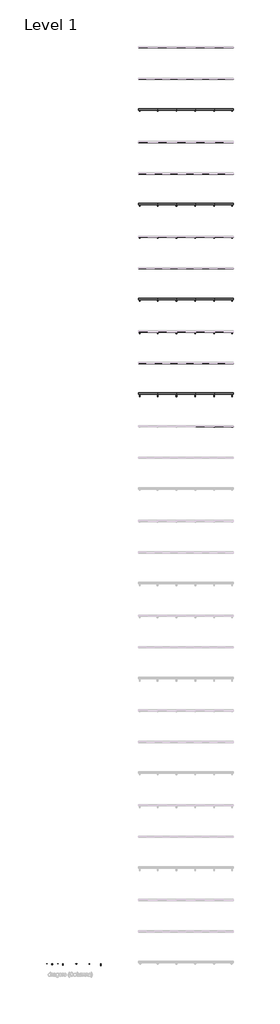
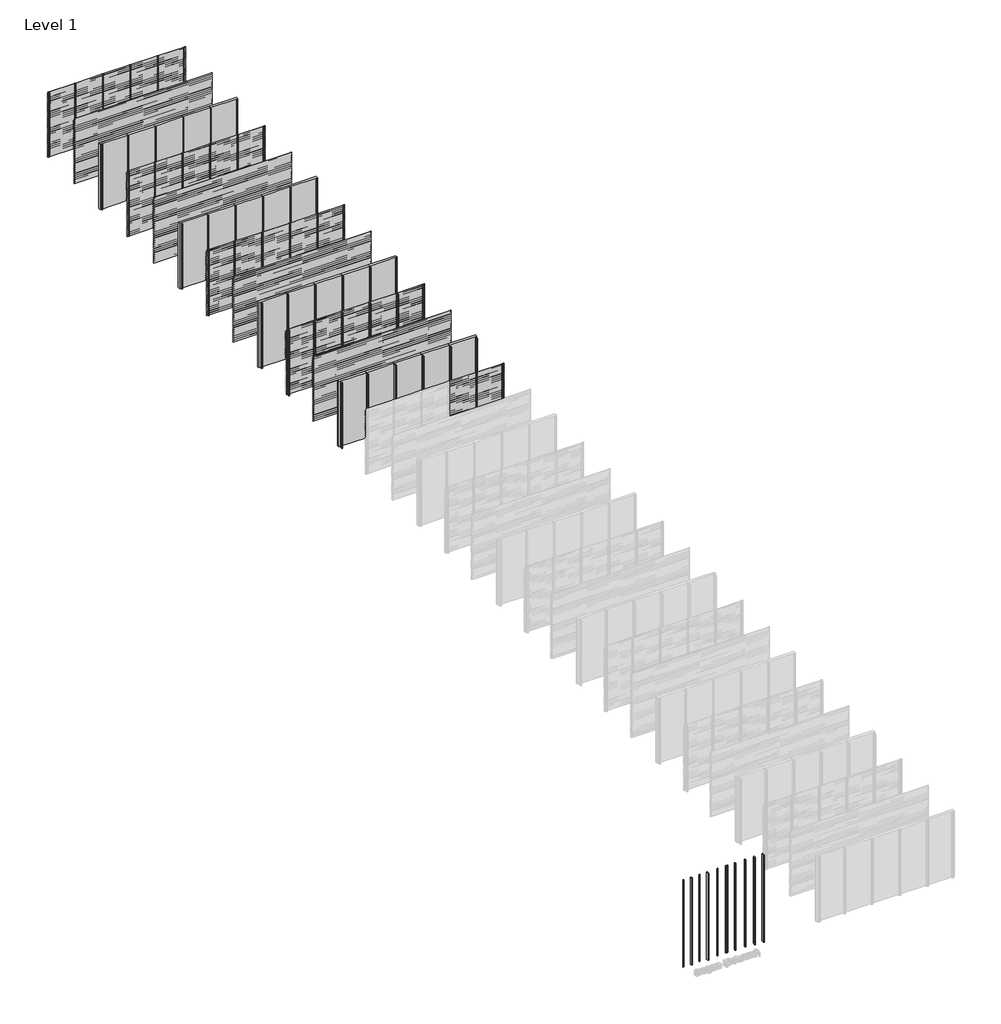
# One storey, part 2 of 24: 50 members, 46 plates, 10 columns.
"""IFC4 building model written with IfcOpenShell, lengths in millimetres."""

from ifc_helpers import new_model, si_unit, origin, origin_with_axes, place, context, project, spatial, polyline, outline, extrude, transform, mapped, element, save
from components import std_5c565dbb, std_899e7a4b, std_785593f7, std_43d18051, std_98619cea, std_01971508, std_518c84ec, std_1eaa2876, std_77a662f7, std_0d551fe3, rectangular_mullion_42be434b, rectangular_mullion_e1f482b2, rectangular_mullion_21e3ddae, rectangular_mullion_fb497acc, rectangular_mullion_3facce28, rectangular_mullion_ffdfeaf4, rectangular_mullion_e0a14876, rectangular_mullion_146f339b, rectangular_mullion_aa1047c5, rectangular_mullion_c2c7736a, rectangular_mullion_35b0a916, rectangular_mullion_bd250e2e, rectangular_mullion_7b49c8f1, rectangular_mullion_0fd695e7, empty_system_panel_empty_aabbdda4

model = new_model("IFC4")

# Units and contexts
model_context = context("Model", 3, world=origin())
ifc_project = project(units=[si_unit("LENGTHUNIT", "METRE", prefix="MILLI")], contexts=[model_context])

# Site, building, storey
site = spatial("IfcSite", under=ifc_project)
building = spatial("IfcBuilding", under=site)
storey = spatial("IfcBuildingStorey", under=building, Name="Level 1", Elevation=0.0)

# Columns
placement = place(None, origin())
std_shape = std_5c565dbb(model_context)
element("IfcColumn", 1, ObjectType="NLRS_21_COL_drager ST.014_Storax : std", at=placement, inside=storey, context=model_context, shape_type="MappedRepresentation", body=[
    mapped(std_shape, transform((-5824.7601511, -58000.0, 0.0), x_axis=(1.0, 0.0, 0.0), y_axis=(0.0, 1.0, 0.0), z_axis=(0.0, 0.0, 1.0))),
])
std_2_shape = std_899e7a4b(model_context)
element("IfcColumn", 2, ObjectType="NLRS_21_COL_drager ST.054_Storax : std", at=placement, inside=storey, context=model_context, shape_type="MappedRepresentation", body=[
    mapped(std_2_shape, transform((-5485.4429851, -58000.0, 0.0), x_axis=(1.0, 0.0, 0.0), y_axis=(0.0, 1.0, 0.0), z_axis=(0.0, 0.0, 1.0))),
])
std_3_shape = std_785593f7(model_context)
element("IfcColumn", 3, ObjectType="NLRS_21_COL_drager ST.0065_Storax : std", at=placement, inside=storey, context=model_context, shape_type="MappedRepresentation", body=[
    mapped(std_3_shape, transform((-5120.6954358, -58000.0, 0.0), x_axis=(1.0, 0.0, 0.0), y_axis=(0.0, 1.0, 0.0), z_axis=(0.0, 0.0, 1.0))),
])
std_4_shape = std_43d18051(model_context)
element("IfcColumn", 4, ObjectType="NLRS_21_COL_drager ST.100_Storax : std", at=placement, inside=storey, context=model_context, shape_type="MappedRepresentation", body=[
    mapped(std_4_shape, transform((-4798.3288682, -58000.0, 0.0), x_axis=(1.0, 0.0, 0.0), y_axis=(0.0, 1.0, 0.0), z_axis=(0.0, 0.0, 1.0))),
])
std_5_shape = std_98619cea(model_context)
element("IfcColumn", 5, ObjectType="NLRS_21_COL_drager ST.0195_Storax : std", at=placement, inside=storey, context=model_context, shape_type="MappedRepresentation", body=[
    mapped(std_5_shape, transform((-4346.8344505, -58000.0, 0.0), x_axis=(1.0, 0.0, 0.0), y_axis=(0.0, 1.0, 0.0), z_axis=(0.0, 0.0, 1.0))),
])
std_6_shape = std_01971508(model_context)
element("IfcColumn", 6, ObjectType="NLRS_21_COL_drager ST.0240_Storax : std", at=placement, inside=storey, context=model_context, shape_type="MappedRepresentation", body=[
    mapped(std_6_shape, transform((-3939.4792083, -58000.0, 0.0), x_axis=(1.0, 0.0, 0.0), y_axis=(0.0, 1.0, 0.0), z_axis=(0.0, 0.0, 1.0))),
])
std_7_shape = std_518c84ec(model_context)
element("IfcColumn", 7, ObjectType="NLRS_21_COL_drager ST.0440_Storax : std", at=placement, inside=storey, context=model_context, shape_type="MappedRepresentation", body=[
    mapped(std_7_shape, transform((-3585.3839676, -58000.0, 0.0), x_axis=(1.0, 0.0, 0.0), y_axis=(0.0, 1.0, 0.0), z_axis=(0.0, 0.0, 1.0))),
])
std_8_shape = std_1eaa2876(model_context)
element("IfcColumn", 8, ObjectType="NLRS_21_COL_drager ST.0460_Storax : std", at=placement, inside=storey, context=model_context, shape_type="MappedRepresentation", body=[
    mapped(std_8_shape, transform((-3138.0700537, -58000.0, 0.0), x_axis=(1.0, 0.0, 0.0), y_axis=(0.0, 1.0, 0.0), z_axis=(0.0, 0.0, 1.0))),
])
std_9_shape = std_77a662f7(model_context)
element("IfcColumn", 9, ObjectType="NLRS_21_COL_drager ST.0995_Storax : std", at=placement, inside=storey, context=model_context, shape_type="MappedRepresentation", body=[
    mapped(std_9_shape, transform((-2753.4636979, -58000.0, 0.0), x_axis=(1.0, 0.0, 0.0), y_axis=(0.0, 1.0, 0.0), z_axis=(0.0, 0.0, 1.0))),
])
std_10_shape = std_0d551fe3(model_context)
element("IfcColumn", 10, ObjectType="NLRS_21_COL_drager ST.1250_Storax : std", at=placement, inside=storey, context=model_context, shape_type="MappedRepresentation", body=[
    mapped(std_10_shape, transform((-2393.9403653, -58000.0, 0.0), x_axis=(1.0, 0.0, 0.0), y_axis=(0.0, 1.0, 0.0), z_axis=(0.0, 0.0, 1.0))),
])

# Members
rectangular_mullion_shape = rectangular_mullion_42be434b(model_context)
element("IfcMember", 11, ObjectType="Rectangular Mullion : NLRS_21_CWM_drager LD.0065_Storax", at=placement, inside=storey, context=model_context, shape_type="MappedRepresentation", body=[
    mapped(rectangular_mullion_shape, transform((4800.0, 0.0, 0.0), x_axis=(-1.0, 0.0, 0.0), y_axis=(0.0, 1.0, 0.0), z_axis=(0.0, 0.0, -1.0))),
])
element("IfcMember", 12, ObjectType="Rectangular Mullion : NLRS_21_CWM_drager LD.0065_Storax", at=placement, inside=storey, context=model_context, shape_type="MappedRepresentation", body=[
    mapped(rectangular_mullion_shape, transform((3600.0, 0.0, 0.0), x_axis=(-1.0, 0.0, 0.0), y_axis=(0.0, 1.0, 0.0), z_axis=(0.0, 0.0, -1.0))),
])
element("IfcMember", 13, ObjectType="Rectangular Mullion : NLRS_21_CWM_drager LD.0065_Storax", at=placement, inside=storey, context=model_context, shape_type="MappedRepresentation", body=[
    mapped(rectangular_mullion_shape, transform((2400.0, 0.0, 0.0), x_axis=(-1.0, 0.0, 0.0), y_axis=(0.0, 1.0, 0.0), z_axis=(0.0, 0.0, -1.0))),
])
element("IfcMember", 14, ObjectType="Rectangular Mullion : NLRS_21_CWM_drager LD.0065_Storax", at=placement, inside=storey, context=model_context, shape_type="MappedRepresentation", body=[
    mapped(rectangular_mullion_shape, transform((1200.0, 0.0, 0.0), x_axis=(-1.0, 0.0, 0.0), y_axis=(0.0, 1.0, 0.0), z_axis=(0.0, 0.0, -1.0))),
])
element("IfcMember", 15, ObjectType="Rectangular Mullion : NLRS_21_CWM_drager LD.0065_Storax", at=placement, inside=storey, context=model_context, shape_type="MappedRepresentation", body=[
    mapped(rectangular_mullion_shape, transform((4800.0, -4000.0, 0.0), x_axis=(-1.0, 0.0, 0.0), y_axis=(0.0, 1.0, 0.0), z_axis=(0.0, 0.0, -1.0))),
])
element("IfcMember", 16, ObjectType="Rectangular Mullion : NLRS_21_CWM_drager LD.0065_Storax", at=placement, inside=storey, context=model_context, shape_type="MappedRepresentation", body=[
    mapped(rectangular_mullion_shape, transform((3600.0, -4000.0, 0.0), x_axis=(-1.0, 0.0, 0.0), y_axis=(0.0, 1.0, 0.0), z_axis=(0.0, 0.0, -1.0))),
])
element("IfcMember", 17, ObjectType="Rectangular Mullion : NLRS_21_CWM_drager LD.0065_Storax", at=placement, inside=storey, context=model_context, shape_type="MappedRepresentation", body=[
    mapped(rectangular_mullion_shape, transform((2400.0, -4000.0, 0.0), x_axis=(-1.0, 0.0, 0.0), y_axis=(0.0, 1.0, 0.0), z_axis=(0.0, 0.0, -1.0))),
])
element("IfcMember", 18, ObjectType="Rectangular Mullion : NLRS_21_CWM_drager LD.0065_Storax", at=placement, inside=storey, context=model_context, shape_type="MappedRepresentation", body=[
    mapped(rectangular_mullion_shape, transform((1200.0, -4000.0, 0.0), x_axis=(-1.0, 0.0, 0.0), y_axis=(0.0, 1.0, 0.0), z_axis=(0.0, 0.0, -1.0))),
])
rectangular_mullion_2_shape = rectangular_mullion_e1f482b2(model_context)
element("IfcMember", 19, ObjectType="Rectangular Mullion : NLRS_21_CWM_drager LD.0195_Storax", at=placement, inside=storey, context=model_context, shape_type="MappedRepresentation", body=[
    mapped(rectangular_mullion_2_shape, transform((4800.0, -6000.0, 0.0), x_axis=(-1.0, 0.0, 0.0), y_axis=(0.0, 1.0, 0.0), z_axis=(0.0, 0.0, -1.0))),
])
element("IfcMember", 20, ObjectType="Rectangular Mullion : NLRS_21_CWM_drager LD.0195_Storax", at=placement, inside=storey, context=model_context, shape_type="MappedRepresentation", body=[
    mapped(rectangular_mullion_2_shape, transform((3600.0, -6000.0, 0.0), x_axis=(-1.0, 0.0, 0.0), y_axis=(0.0, 1.0, 0.0), z_axis=(0.0, 0.0, -1.0))),
])
element("IfcMember", 21, ObjectType="Rectangular Mullion : NLRS_21_CWM_drager LD.0195_Storax", at=placement, inside=storey, context=model_context, shape_type="MappedRepresentation", body=[
    mapped(rectangular_mullion_2_shape, transform((2400.0, -6000.0, 0.0), x_axis=(-1.0, 0.0, 0.0), y_axis=(0.0, 1.0, 0.0), z_axis=(0.0, 0.0, -1.0))),
])
element("IfcMember", 22, ObjectType="Rectangular Mullion : NLRS_21_CWM_drager LD.0195_Storax", at=placement, inside=storey, context=model_context, shape_type="MappedRepresentation", body=[
    mapped(rectangular_mullion_2_shape, transform((1200.0, -6000.0, 0.0), x_axis=(-1.0, 0.0, 0.0), y_axis=(0.0, 1.0, 0.0), z_axis=(0.0, 0.0, -1.0))),
])
element("IfcMember", 23, ObjectType="Rectangular Mullion : NLRS_21_CWM_drager LD.0195_Storax", at=placement, inside=storey, context=model_context, shape_type="MappedRepresentation", body=[
    mapped(rectangular_mullion_2_shape, transform((4800.0, -10000.0, 0.0), x_axis=(-1.0, 0.0, 0.0), y_axis=(0.0, 1.0, 0.0), z_axis=(0.0, 0.0, -1.0))),
])
element("IfcMember", 24, ObjectType="Rectangular Mullion : NLRS_21_CWM_drager LD.0195_Storax", at=placement, inside=storey, context=model_context, shape_type="MappedRepresentation", body=[
    mapped(rectangular_mullion_2_shape, transform((3600.0, -10000.0, 0.0), x_axis=(-1.0, 0.0, 0.0), y_axis=(0.0, 1.0, 0.0), z_axis=(0.0, 0.0, -1.0))),
])
element("IfcMember", 25, ObjectType="Rectangular Mullion : NLRS_21_CWM_drager LD.0195_Storax", at=placement, inside=storey, context=model_context, shape_type="MappedRepresentation", body=[
    mapped(rectangular_mullion_2_shape, transform((2400.0, -10000.0, 0.0), x_axis=(-1.0, 0.0, 0.0), y_axis=(0.0, 1.0, 0.0), z_axis=(0.0, 0.0, -1.0))),
])
element("IfcMember", 26, ObjectType="Rectangular Mullion : NLRS_21_CWM_drager LD.0195_Storax", at=placement, inside=storey, context=model_context, shape_type="MappedRepresentation", body=[
    mapped(rectangular_mullion_2_shape, transform((1200.0, -10000.0, 0.0), x_axis=(-1.0, 0.0, 0.0), y_axis=(0.0, 1.0, 0.0), z_axis=(0.0, 0.0, -1.0))),
])
rectangular_mullion_3_shape = rectangular_mullion_21e3ddae(model_context)
element("IfcMember", 27, ObjectType="Rectangular Mullion : NLRS_21_CWM_drager LD.0460_Storax", at=placement, inside=storey, context=model_context, shape_type="MappedRepresentation", body=[
    mapped(rectangular_mullion_3_shape, transform((4800.0, -12000.0, 0.0), x_axis=(-1.0, 0.0, 0.0), y_axis=(0.0, 1.0, 0.0), z_axis=(0.0, 0.0, -1.0))),
])
element("IfcMember", 28, ObjectType="Rectangular Mullion : NLRS_21_CWM_drager LD.0460_Storax", at=placement, inside=storey, context=model_context, shape_type="MappedRepresentation", body=[
    mapped(rectangular_mullion_3_shape, transform((3600.0, -12000.0, 0.0), x_axis=(-1.0, 0.0, 0.0), y_axis=(0.0, 1.0, 0.0), z_axis=(0.0, 0.0, -1.0))),
])
element("IfcMember", 29, ObjectType="Rectangular Mullion : NLRS_21_CWM_drager LD.0460_Storax", at=placement, inside=storey, context=model_context, shape_type="MappedRepresentation", body=[
    mapped(rectangular_mullion_3_shape, transform((2400.0, -12000.0, 0.0), x_axis=(-1.0, 0.0, 0.0), y_axis=(0.0, 1.0, 0.0), z_axis=(0.0, 0.0, -1.0))),
])
element("IfcMember", 30, ObjectType="Rectangular Mullion : NLRS_21_CWM_drager LD.0460_Storax", at=placement, inside=storey, context=model_context, shape_type="MappedRepresentation", body=[
    mapped(rectangular_mullion_3_shape, transform((1200.0, -12000.0, 0.0), x_axis=(-1.0, 0.0, 0.0), y_axis=(0.0, 1.0, 0.0), z_axis=(0.0, 0.0, -1.0))),
])
element("IfcMember", 31, ObjectType="Rectangular Mullion : NLRS_21_CWM_drager LD.0460_Storax", at=placement, inside=storey, context=model_context, shape_type="MappedRepresentation", body=[
    mapped(rectangular_mullion_3_shape, transform((4800.0, -16000.0, 0.0), x_axis=(-1.0, 0.0, 0.0), y_axis=(0.0, 1.0, 0.0), z_axis=(0.0, 0.0, -1.0))),
])
element("IfcMember", 32, ObjectType="Rectangular Mullion : NLRS_21_CWM_drager LD.0460_Storax", at=placement, inside=storey, context=model_context, shape_type="MappedRepresentation", body=[
    mapped(rectangular_mullion_3_shape, transform((3600.0, -16000.0, 0.0), x_axis=(-1.0, 0.0, 0.0), y_axis=(0.0, 1.0, 0.0), z_axis=(0.0, 0.0, -1.0))),
])
element("IfcMember", 33, ObjectType="Rectangular Mullion : NLRS_21_CWM_drager LD.0460_Storax", at=placement, inside=storey, context=model_context, shape_type="MappedRepresentation", body=[
    mapped(rectangular_mullion_3_shape, transform((2400.0, -16000.0, 0.0), x_axis=(-1.0, 0.0, 0.0), y_axis=(0.0, 1.0, 0.0), z_axis=(0.0, 0.0, -1.0))),
])
element("IfcMember", 34, ObjectType="Rectangular Mullion : NLRS_21_CWM_drager LD.0460_Storax", at=placement, inside=storey, context=model_context, shape_type="MappedRepresentation", body=[
    mapped(rectangular_mullion_3_shape, transform((1200.0, -16000.0, 0.0), x_axis=(-1.0, 0.0, 0.0), y_axis=(0.0, 1.0, 0.0), z_axis=(0.0, 0.0, -1.0))),
])
rectangular_mullion_4_shape = rectangular_mullion_fb497acc(model_context)
element("IfcMember", 35, ObjectType="Rectangular Mullion : NLRS_21_CWM_drager LD.0995_Storax", at=placement, inside=storey, context=model_context, shape_type="MappedRepresentation", body=[
    mapped(rectangular_mullion_4_shape, transform((4800.0, -18000.0, 0.0), x_axis=(-1.0, 0.0, 0.0), y_axis=(0.0, 1.0, 0.0), z_axis=(0.0, 0.0, -1.0))),
])
element("IfcMember", 36, ObjectType="Rectangular Mullion : NLRS_21_CWM_drager LD.0995_Storax", at=placement, inside=storey, context=model_context, shape_type="MappedRepresentation", body=[
    mapped(rectangular_mullion_4_shape, transform((3600.0, -18000.0, 0.0), x_axis=(-1.0, 0.0, 0.0), y_axis=(0.0, 1.0, 0.0), z_axis=(0.0, 0.0, -1.0))),
])
element("IfcMember", 37, ObjectType="Rectangular Mullion : NLRS_21_CWM_drager LD.0995_Storax", at=placement, inside=storey, context=model_context, shape_type="MappedRepresentation", body=[
    mapped(rectangular_mullion_4_shape, transform((2400.0, -18000.0, 0.0), x_axis=(-1.0, 0.0, 0.0), y_axis=(0.0, 1.0, 0.0), z_axis=(0.0, 0.0, -1.0))),
])
element("IfcMember", 38, ObjectType="Rectangular Mullion : NLRS_21_CWM_drager LD.0995_Storax", at=placement, inside=storey, context=model_context, shape_type="MappedRepresentation", body=[
    mapped(rectangular_mullion_4_shape, transform((1200.0, -18000.0, 0.0), x_axis=(-1.0, 0.0, 0.0), y_axis=(0.0, 1.0, 0.0), z_axis=(0.0, 0.0, -1.0))),
])
element("IfcMember", 39, ObjectType="Rectangular Mullion : NLRS_21_CWM_drager LD.0995_Storax", at=placement, inside=storey, context=model_context, shape_type="MappedRepresentation", body=[
    mapped(rectangular_mullion_4_shape, transform((4800.0, -22000.0, 0.0), x_axis=(-1.0, 0.0, 0.0), y_axis=(0.0, 1.0, 0.0), z_axis=(0.0, 0.0, -1.0))),
])
element("IfcMember", 40, ObjectType="Rectangular Mullion : NLRS_21_CWM_drager LD.0995_Storax", at=placement, inside=storey, context=model_context, shape_type="MappedRepresentation", body=[
    mapped(rectangular_mullion_4_shape, transform((3600.0, -22000.0, 0.0), x_axis=(-1.0, 0.0, 0.0), y_axis=(0.0, 1.0, 0.0), z_axis=(0.0, 0.0, -1.0))),
])
element("IfcMember", 41, ObjectType="Rectangular Mullion : NLRS_21_CWM_drager LD.0995_Storax", at=placement, inside=storey, context=model_context, shape_type="MappedRepresentation", body=[
    mapped(rectangular_mullion_4_shape, transform((2400.0, -22000.0, 0.0), x_axis=(-1.0, 0.0, 0.0), y_axis=(0.0, 1.0, 0.0), z_axis=(0.0, 0.0, -1.0))),
])
element("IfcMember", 42, ObjectType="Rectangular Mullion : NLRS_21_CWM_drager LD.0995_Storax", at=placement, inside=storey, context=model_context, shape_type="MappedRepresentation", body=[
    mapped(rectangular_mullion_4_shape, transform((1200.0, -22000.0, 0.0), x_axis=(-1.0, 0.0, 0.0), y_axis=(0.0, 1.0, 0.0), z_axis=(0.0, 0.0, -1.0))),
])
rectangular_mullion_5_shape = rectangular_mullion_3facce28(model_context)
element("IfcMember", 43, ObjectType="Rectangular Mullion : NLRS_21_CWM_drager SD.014_Storax", at=placement, inside=storey, context=model_context, shape_type="MappedRepresentation", body=[
    mapped(rectangular_mullion_5_shape, transform((4800.0, -24000.0, 0.0), x_axis=(-1.0, 0.0, 0.0), y_axis=(0.0, 1.0, 0.0), z_axis=(0.0, 0.0, -1.0))),
])
rectangular_mullion_6_shape = rectangular_mullion_ffdfeaf4(model_context)
element("IfcMember", 44, ObjectType="Rectangular Mullion : NLRS_21_CWM_drager LD.0065 - links_Storax", at=placement, inside=storey, context=model_context, shape_type="MappedRepresentation", body=[
    mapped(rectangular_mullion_6_shape, transform((0.0, 0.0, 0.0), x_axis=(-1.0, 0.0, 0.0), y_axis=(0.0, 1.0, 0.0), z_axis=(0.0, 0.0, -1.0))),
])
element("IfcMember", 45, ObjectType="Rectangular Mullion : NLRS_21_CWM_drager LD.0065 - links_Storax", at=placement, inside=storey, context=model_context, shape_type="MappedRepresentation", body=[
    mapped(rectangular_mullion_6_shape, transform((0.0, -4000.0, 0.0), x_axis=(-1.0, 0.0, 0.0), y_axis=(0.0, 1.0, 0.0), z_axis=(0.0, 0.0, -1.0))),
])
rectangular_mullion_7_shape = rectangular_mullion_e0a14876(model_context)
element("IfcMember", 46, ObjectType="Rectangular Mullion : NLRS_21_CWM_drager LD.0065 - rechts_Storax", at=placement, inside=storey, context=model_context, shape_type="MappedRepresentation", body=[
    mapped(rectangular_mullion_7_shape, transform((6000.0, 0.0, 3000.0), x_axis=(1.0, 0.0, 0.0), y_axis=(0.0, 1.0, 0.0), z_axis=(0.0, 0.0, 1.0))),
])
element("IfcMember", 47, ObjectType="Rectangular Mullion : NLRS_21_CWM_drager LD.0065 - rechts_Storax", at=placement, inside=storey, context=model_context, shape_type="MappedRepresentation", body=[
    mapped(rectangular_mullion_7_shape, transform((6000.0, -4000.0, 3000.0), x_axis=(1.0, 0.0, 0.0), y_axis=(0.0, 1.0, 0.0), z_axis=(0.0, 0.0, 1.0))),
])
rectangular_mullion_8_shape = rectangular_mullion_146f339b(model_context)
element("IfcMember", 48, ObjectType="Rectangular Mullion : NLRS_21_CWM_drager LD.0195 - links_Storax", at=placement, inside=storey, context=model_context, shape_type="MappedRepresentation", body=[
    mapped(rectangular_mullion_8_shape, transform((0.0, -6000.0, 0.0), x_axis=(-1.0, 0.0, 0.0), y_axis=(0.0, 1.0, 0.0), z_axis=(0.0, 0.0, -1.0))),
])
element("IfcMember", 49, ObjectType="Rectangular Mullion : NLRS_21_CWM_drager LD.0195 - links_Storax", at=placement, inside=storey, context=model_context, shape_type="MappedRepresentation", body=[
    mapped(rectangular_mullion_8_shape, transform((0.0, -10000.0, 0.0), x_axis=(-1.0, 0.0, 0.0), y_axis=(0.0, 1.0, 0.0), z_axis=(0.0, 0.0, -1.0))),
])
rectangular_mullion_9_shape = rectangular_mullion_aa1047c5(model_context)
element("IfcMember", 50, ObjectType="Rectangular Mullion : NLRS_21_CWM_drager LD.0195 - rechts_Storax", at=placement, inside=storey, context=model_context, shape_type="MappedRepresentation", body=[
    mapped(rectangular_mullion_9_shape, transform((6000.0, -6000.0, 3000.0), x_axis=(1.0, 0.0, 0.0), y_axis=(0.0, 1.0, 0.0), z_axis=(0.0, 0.0, 1.0))),
])
element("IfcMember", 51, ObjectType="Rectangular Mullion : NLRS_21_CWM_drager LD.0195 - rechts_Storax", at=placement, inside=storey, context=model_context, shape_type="MappedRepresentation", body=[
    mapped(rectangular_mullion_9_shape, transform((6000.0, -10000.0, 3000.0), x_axis=(1.0, 0.0, 0.0), y_axis=(0.0, 1.0, 0.0), z_axis=(0.0, 0.0, 1.0))),
])
rectangular_mullion_10_shape = rectangular_mullion_c2c7736a(model_context)
element("IfcMember", 52, ObjectType="Rectangular Mullion : NLRS_21_CWM_drager LD.0460 - links_Storax", at=placement, inside=storey, context=model_context, shape_type="MappedRepresentation", body=[
    mapped(rectangular_mullion_10_shape, transform((0.0, -12000.0, 0.0), x_axis=(-1.0, 0.0, 0.0), y_axis=(0.0, 1.0, 0.0), z_axis=(0.0, 0.0, -1.0))),
])
element("IfcMember", 53, ObjectType="Rectangular Mullion : NLRS_21_CWM_drager LD.0460 - links_Storax", at=placement, inside=storey, context=model_context, shape_type="MappedRepresentation", body=[
    mapped(rectangular_mullion_10_shape, transform((0.0, -16000.0, 0.0), x_axis=(-1.0, 0.0, 0.0), y_axis=(0.0, 1.0, 0.0), z_axis=(0.0, 0.0, -1.0))),
])
rectangular_mullion_11_shape = rectangular_mullion_35b0a916(model_context)
element("IfcMember", 54, ObjectType="Rectangular Mullion : NLRS_21_CWM_drager LD.0460 - rechts_Storax", at=placement, inside=storey, context=model_context, shape_type="MappedRepresentation", body=[
    mapped(rectangular_mullion_11_shape, transform((6000.0, -12000.0, 3000.0), x_axis=(1.0, 0.0, 0.0), y_axis=(0.0, 1.0, 0.0), z_axis=(0.0, 0.0, 1.0))),
])
element("IfcMember", 55, ObjectType="Rectangular Mullion : NLRS_21_CWM_drager LD.0460 - rechts_Storax", at=placement, inside=storey, context=model_context, shape_type="MappedRepresentation", body=[
    mapped(rectangular_mullion_11_shape, transform((6000.0, -16000.0, 3000.0), x_axis=(1.0, 0.0, 0.0), y_axis=(0.0, 1.0, 0.0), z_axis=(0.0, 0.0, 1.0))),
])
rectangular_mullion_12_shape = rectangular_mullion_bd250e2e(model_context)
element("IfcMember", 56, ObjectType="Rectangular Mullion : NLRS_21_CWM_drager LD.0995 - links_Storax", at=placement, inside=storey, context=model_context, shape_type="MappedRepresentation", body=[
    mapped(rectangular_mullion_12_shape, transform((0.0, -18000.0, 0.0), x_axis=(-1.0, 0.0, 0.0), y_axis=(0.0, 1.0, 0.0), z_axis=(0.0, 0.0, -1.0))),
])
element("IfcMember", 57, ObjectType="Rectangular Mullion : NLRS_21_CWM_drager LD.0995 - links_Storax", at=placement, inside=storey, context=model_context, shape_type="MappedRepresentation", body=[
    mapped(rectangular_mullion_12_shape, transform((0.0, -22000.0, 0.0), x_axis=(-1.0, 0.0, 0.0), y_axis=(0.0, 1.0, 0.0), z_axis=(0.0, 0.0, -1.0))),
])
rectangular_mullion_13_shape = rectangular_mullion_7b49c8f1(model_context)
element("IfcMember", 58, ObjectType="Rectangular Mullion : NLRS_21_CWM_drager LD.0995 - rechts_Storax", at=placement, inside=storey, context=model_context, shape_type="MappedRepresentation", body=[
    mapped(rectangular_mullion_13_shape, transform((6000.0, -18000.0, 3000.0), x_axis=(1.0, 0.0, 0.0), y_axis=(0.0, 1.0, 0.0), z_axis=(0.0, 0.0, 1.0))),
])
element("IfcMember", 59, ObjectType="Rectangular Mullion : NLRS_21_CWM_drager LD.0995 - rechts_Storax", at=placement, inside=storey, context=model_context, shape_type="MappedRepresentation", body=[
    mapped(rectangular_mullion_13_shape, transform((6000.0, -22000.0, 3000.0), x_axis=(1.0, 0.0, 0.0), y_axis=(0.0, 1.0, 0.0), z_axis=(0.0, 0.0, 1.0))),
])
rectangular_mullion_14_shape = rectangular_mullion_0fd695e7(model_context)
element("IfcMember", 60, ObjectType="Rectangular Mullion : NLRS_21_CWM_drager SD.014 - rechts_Storax", at=placement, inside=storey, context=model_context, shape_type="MappedRepresentation", body=[
    mapped(rectangular_mullion_14_shape, transform((6000.0, -24000.0, 3000.0), x_axis=(1.0, 0.0, 0.0), y_axis=(0.0, 1.0, 0.0), z_axis=(0.0, 0.0, 1.0))),
])

# Plates
element("IfcPlate", 61, ObjectType="NLRS_21_WA_lamellenwand Linius - L.095.01_Storax", at=placement, inside=storey, context=model_context, shape_type="SweptSolid", body=[
    extrude(outline(polyline([(0.0, 1.0), (1200.0, 1.0), (1200.0, -1.0), (0.0, -1.0), (0.0, 1.0)])), origin_with_axes(), (0.0, 0.0, 1.0), 3000.0),
])
element("IfcPlate", 62, ObjectType="NLRS_21_WA_lamellenwand Linius - L.095.01_Storax", at=placement, inside=storey, context=model_context, shape_type="SweptSolid", body=[
    extrude(outline(polyline([(1200.0, 1.0), (2400.0, 1.0), (2400.0, -1.0), (1200.0, -1.0), (1200.0, 1.0)])), origin_with_axes(), (0.0, 0.0, 1.0), 3000.0),
])
element("IfcPlate", 63, ObjectType="NLRS_21_WA_lamellenwand Linius - L.095.01_Storax", at=placement, inside=storey, context=model_context, shape_type="SweptSolid", body=[
    extrude(outline(polyline([(2400.0, 1.0), (3600.0, 1.0), (3600.0, -1.0), (2400.0, -1.0), (2400.0, 1.0)])), origin_with_axes(), (0.0, 0.0, 1.0), 3000.0),
])
element("IfcPlate", 64, ObjectType="NLRS_21_WA_lamellenwand Linius - L.095.01_Storax", at=placement, inside=storey, context=model_context, shape_type="SweptSolid", body=[
    extrude(outline(polyline([(3600.0, 1.0), (4800.0, 1.0), (4800.0, -1.0), (3600.0, -1.0), (3600.0, 1.0)])), origin_with_axes(), (0.0, 0.0, 1.0), 3000.0),
])
element("IfcPlate", 65, ObjectType="NLRS_21_WA_lamellenwand Linius - L.095.01_Storax", at=placement, inside=storey, context=model_context, shape_type="SweptSolid", body=[
    extrude(outline(polyline([(4800.0, 1.0), (6000.0, 1.0), (6000.0, -1.0), (4800.0, -1.0), (4800.0, 1.0)])), origin_with_axes(), (0.0, 0.0, 1.0), 3000.0),
])
element("IfcPlate", 66, ObjectType="NLRS_21_WA_lamellenwand Linius - L.095.01_Storax", at=placement, inside=storey, context=model_context, shape_type="SweptSolid", body=[
    extrude(outline(polyline([(0.0, -1999.0), (6000.0, -1999.0), (6000.0, -2001.0), (0.0, -2001.0), (0.0, -1999.0)])), origin_with_axes(), (0.0, 0.0, 1.0), 3000.0),
])
element("IfcPlate", 67, ObjectType="NLRS_21_WA_lamellenwand Linius - L.095.01_Storax", at=placement, inside=storey, context=model_context, shape_type="SweptSolid", body=[
    extrude(outline(polyline([(0.0, -5999.0), (1200.0, -5999.0), (1200.0, -6001.0), (0.0, -6001.0), (0.0, -5999.0)])), origin_with_axes(), (0.0, 0.0, 1.0), 3000.0),
])
element("IfcPlate", 68, ObjectType="NLRS_21_WA_lamellenwand Linius - L.095.01_Storax", at=placement, inside=storey, context=model_context, shape_type="SweptSolid", body=[
    extrude(outline(polyline([(1200.0, -5999.0), (2400.0, -5999.0), (2400.0, -6001.0), (1200.0, -6001.0), (1200.0, -5999.0)])), origin_with_axes(), (0.0, 0.0, 1.0), 3000.0),
])
element("IfcPlate", 69, ObjectType="NLRS_21_WA_lamellenwand Linius - L.095.01_Storax", at=placement, inside=storey, context=model_context, shape_type="SweptSolid", body=[
    extrude(outline(polyline([(2400.0, -5999.0), (3600.0, -5999.0), (3600.0, -6001.0), (2400.0, -6001.0), (2400.0, -5999.0)])), origin_with_axes(), (0.0, 0.0, 1.0), 3000.0),
])
element("IfcPlate", 70, ObjectType="NLRS_21_WA_lamellenwand Linius - L.095.01_Storax", at=placement, inside=storey, context=model_context, shape_type="SweptSolid", body=[
    extrude(outline(polyline([(3600.0, -5999.0), (4800.0, -5999.0), (4800.0, -6001.0), (3600.0, -6001.0), (3600.0, -5999.0)])), origin_with_axes(), (0.0, 0.0, 1.0), 3000.0),
])
element("IfcPlate", 71, ObjectType="NLRS_21_WA_lamellenwand Linius - L.095.01_Storax", at=placement, inside=storey, context=model_context, shape_type="SweptSolid", body=[
    extrude(outline(polyline([(4800.0, -5999.0), (6000.0, -5999.0), (6000.0, -6001.0), (4800.0, -6001.0), (4800.0, -5999.0)])), origin_with_axes(), (0.0, 0.0, 1.0), 3000.0),
])
element("IfcPlate", 72, ObjectType="NLRS_21_WA_lamellenwand Linius - L.095.01_Storax", at=placement, inside=storey, context=model_context, shape_type="SweptSolid", body=[
    extrude(outline(polyline([(0.0, -7999.0), (6000.0, -7999.0), (6000.0, -8001.0), (0.0, -8001.0), (0.0, -7999.0)])), origin_with_axes(), (0.0, 0.0, 1.0), 3000.0),
])
element("IfcPlate", 73, ObjectType="NLRS_21_WA_lamellenwand Linius - L.095.01_Storax", at=placement, inside=storey, context=model_context, shape_type="SweptSolid", body=[
    extrude(outline(polyline([(0.0, -11999.0), (1200.0, -11999.0), (1200.0, -12001.0), (0.0, -12001.0), (0.0, -11999.0)])), origin_with_axes(), (0.0, 0.0, 1.0), 3000.0),
])
element("IfcPlate", 74, ObjectType="NLRS_21_WA_lamellenwand Linius - L.095.01_Storax", at=placement, inside=storey, context=model_context, shape_type="SweptSolid", body=[
    extrude(outline(polyline([(1200.0, -11999.0), (2400.0, -11999.0), (2400.0, -12001.0), (1200.0, -12001.0), (1200.0, -11999.0)])), origin_with_axes(), (0.0, 0.0, 1.0), 3000.0),
])
element("IfcPlate", 75, ObjectType="NLRS_21_WA_lamellenwand Linius - L.095.01_Storax", at=placement, inside=storey, context=model_context, shape_type="SweptSolid", body=[
    extrude(outline(polyline([(2400.0, -11999.0), (3600.0, -11999.0), (3600.0, -12001.0), (2400.0, -12001.0), (2400.0, -11999.0)])), origin_with_axes(), (0.0, 0.0, 1.0), 3000.0),
])
element("IfcPlate", 76, ObjectType="NLRS_21_WA_lamellenwand Linius - L.095.01_Storax", at=placement, inside=storey, context=model_context, shape_type="SweptSolid", body=[
    extrude(outline(polyline([(3600.0, -11999.0), (4800.0, -11999.0), (4800.0, -12001.0), (3600.0, -12001.0), (3600.0, -11999.0)])), origin_with_axes(), (0.0, 0.0, 1.0), 3000.0),
])
element("IfcPlate", 77, ObjectType="NLRS_21_WA_lamellenwand Linius - L.095.01_Storax", at=placement, inside=storey, context=model_context, shape_type="SweptSolid", body=[
    extrude(outline(polyline([(4800.0, -11999.0), (6000.0, -11999.0), (6000.0, -12001.0), (4800.0, -12001.0), (4800.0, -11999.0)])), origin_with_axes(), (0.0, 0.0, 1.0), 3000.0),
])
element("IfcPlate", 78, ObjectType="NLRS_21_WA_lamellenwand Linius - L.095.01_Storax", at=placement, inside=storey, context=model_context, shape_type="SweptSolid", body=[
    extrude(outline(polyline([(0.0, -13999.0), (6000.0, -13999.0), (6000.0, -14001.0), (0.0, -14001.0), (0.0, -13999.0)])), origin_with_axes(), (0.0, 0.0, 1.0), 3000.0),
])
element("IfcPlate", 79, ObjectType="NLRS_21_WA_lamellenwand Linius - L.095.01_Storax", at=placement, inside=storey, context=model_context, shape_type="SweptSolid", body=[
    extrude(outline(polyline([(0.0, -17999.0), (1200.0, -17999.0), (1200.0, -18001.0), (0.0, -18001.0), (0.0, -17999.0)])), origin_with_axes(), (0.0, 0.0, 1.0), 3000.0),
])
element("IfcPlate", 80, ObjectType="NLRS_21_WA_lamellenwand Linius - L.095.01_Storax", at=placement, inside=storey, context=model_context, shape_type="SweptSolid", body=[
    extrude(outline(polyline([(1200.0, -17999.0), (2400.0, -17999.0), (2400.0, -18001.0), (1200.0, -18001.0), (1200.0, -17999.0)])), origin_with_axes(), (0.0, 0.0, 1.0), 3000.0),
])
element("IfcPlate", 81, ObjectType="NLRS_21_WA_lamellenwand Linius - L.095.01_Storax", at=placement, inside=storey, context=model_context, shape_type="SweptSolid", body=[
    extrude(outline(polyline([(2400.0, -17999.0), (3600.0, -17999.0), (3600.0, -18001.0), (2400.0, -18001.0), (2400.0, -17999.0)])), origin_with_axes(), (0.0, 0.0, 1.0), 3000.0),
])
element("IfcPlate", 82, ObjectType="NLRS_21_WA_lamellenwand Linius - L.095.01_Storax", at=placement, inside=storey, context=model_context, shape_type="SweptSolid", body=[
    extrude(outline(polyline([(3600.0, -17999.0), (4800.0, -17999.0), (4800.0, -18001.0), (3600.0, -18001.0), (3600.0, -17999.0)])), origin_with_axes(), (0.0, 0.0, 1.0), 3000.0),
])
element("IfcPlate", 83, ObjectType="NLRS_21_WA_lamellenwand Linius - L.095.01_Storax", at=placement, inside=storey, context=model_context, shape_type="SweptSolid", body=[
    extrude(outline(polyline([(4800.0, -17999.0), (6000.0, -17999.0), (6000.0, -18001.0), (4800.0, -18001.0), (4800.0, -17999.0)])), origin_with_axes(), (0.0, 0.0, 1.0), 3000.0),
])
element("IfcPlate", 84, ObjectType="NLRS_21_WA_lamellenwand Linius - L.095.01_Storax", at=placement, inside=storey, context=model_context, shape_type="SweptSolid", body=[
    extrude(outline(polyline([(0.0, -19999.0), (6000.0, -19999.0), (6000.0, -20001.0), (0.0, -20001.0), (0.0, -19999.0)])), origin_with_axes(), (0.0, 0.0, 1.0), 3000.0),
])
element("IfcPlate", 85, ObjectType="NLRS_21_WA_lamellenwand Linius - L.095.01_Storax", at=placement, inside=storey, context=model_context, shape_type="SweptSolid", body=[
    extrude(outline(polyline([(3600.0, -23999.0), (4800.0, -23999.0), (4800.0, -24001.0), (3600.0, -24001.0), (3600.0, -23999.0)])), origin_with_axes(), (0.0, 0.0, 1.0), 3000.0),
])
element("IfcPlate", 86, ObjectType="NLRS_21_WA_lamellenwand Linius - L.095.01_Storax", at=placement, inside=storey, context=model_context, shape_type="SweptSolid", body=[
    extrude(outline(polyline([(4800.0, -23999.0), (6000.0, -23999.0), (6000.0, -24001.0), (4800.0, -24001.0), (4800.0, -23999.0)])), origin_with_axes(), (0.0, 0.0, 1.0), 3000.0),
])
empty_system_panel_empty_shape = empty_system_panel_empty_aabbdda4(model_context)
element("IfcPlate", 87, ObjectType="Empty System Panel : Empty", at=placement, inside=storey, context=model_context, shape_type="MappedRepresentation", body=[
    mapped(empty_system_panel_empty_shape, transform((5400.0, -4000.0, 0.0), x_axis=(-1.0, 0.0, 0.0), y_axis=(0.0, -1.0, 0.0), z_axis=(0.0, 0.0, 1.0))),
])
element("IfcPlate", 88, ObjectType="Empty System Panel : Empty", at=placement, inside=storey, context=model_context, shape_type="MappedRepresentation", body=[
    mapped(empty_system_panel_empty_shape, transform((5400.0, -10000.0, 0.0), x_axis=(-1.0, 0.0, 0.0), y_axis=(0.0, -1.0, 0.0), z_axis=(0.0, 0.0, 1.0))),
])
element("IfcPlate", 89, ObjectType="Empty System Panel : Empty", at=placement, inside=storey, context=model_context, shape_type="MappedRepresentation", body=[
    mapped(empty_system_panel_empty_shape, transform((5400.0, -16000.0, 0.0), x_axis=(-1.0, 0.0, 0.0), y_axis=(0.0, -1.0, 0.0), z_axis=(0.0, 0.0, 1.0))),
])
element("IfcPlate", 90, ObjectType="Empty System Panel : Empty", at=placement, inside=storey, context=model_context, shape_type="MappedRepresentation", body=[
    mapped(empty_system_panel_empty_shape, transform((5400.0, -22000.0, 0.0), x_axis=(-1.0, 0.0, 0.0), y_axis=(0.0, -1.0, 0.0), z_axis=(0.0, 0.0, 1.0))),
])
element("IfcPlate", 91, ObjectType="Empty System Panel : Empty", at=placement, inside=storey, context=model_context, shape_type="MappedRepresentation", body=[
    mapped(empty_system_panel_empty_shape, transform((4200.0, -4000.0, 0.0), x_axis=(-1.0, 0.0, 0.0), y_axis=(0.0, -1.0, 0.0), z_axis=(0.0, 0.0, 1.0))),
])
element("IfcPlate", 92, ObjectType="Empty System Panel : Empty", at=placement, inside=storey, context=model_context, shape_type="MappedRepresentation", body=[
    mapped(empty_system_panel_empty_shape, transform((3000.0, -4000.0, 0.0), x_axis=(-1.0, 0.0, 0.0), y_axis=(0.0, -1.0, 0.0), z_axis=(0.0, 0.0, 1.0))),
])
element("IfcPlate", 93, ObjectType="Empty System Panel : Empty", at=placement, inside=storey, context=model_context, shape_type="MappedRepresentation", body=[
    mapped(empty_system_panel_empty_shape, transform((1800.0, -4000.0, 0.0), x_axis=(-1.0, 0.0, 0.0), y_axis=(0.0, -1.0, 0.0), z_axis=(0.0, 0.0, 1.0))),
])
element("IfcPlate", 94, ObjectType="Empty System Panel : Empty", at=placement, inside=storey, context=model_context, shape_type="MappedRepresentation", body=[
    mapped(empty_system_panel_empty_shape, transform((600.0, -4000.0, 0.0), x_axis=(-1.0, 0.0, 0.0), y_axis=(0.0, -1.0, 0.0), z_axis=(0.0, 0.0, 1.0))),
])
element("IfcPlate", 95, ObjectType="Empty System Panel : Empty", at=placement, inside=storey, context=model_context, shape_type="MappedRepresentation", body=[
    mapped(empty_system_panel_empty_shape, transform((4200.0, -10000.0, 0.0), x_axis=(-1.0, 0.0, 0.0), y_axis=(0.0, -1.0, 0.0), z_axis=(0.0, 0.0, 1.0))),
])
element("IfcPlate", 96, ObjectType="Empty System Panel : Empty", at=placement, inside=storey, context=model_context, shape_type="MappedRepresentation", body=[
    mapped(empty_system_panel_empty_shape, transform((3000.0, -10000.0, 0.0), x_axis=(-1.0, 0.0, 0.0), y_axis=(0.0, -1.0, 0.0), z_axis=(0.0, 0.0, 1.0))),
])
element("IfcPlate", 97, ObjectType="Empty System Panel : Empty", at=placement, inside=storey, context=model_context, shape_type="MappedRepresentation", body=[
    mapped(empty_system_panel_empty_shape, transform((1800.0, -10000.0, 0.0), x_axis=(-1.0, 0.0, 0.0), y_axis=(0.0, -1.0, 0.0), z_axis=(0.0, 0.0, 1.0))),
])
element("IfcPlate", 98, ObjectType="Empty System Panel : Empty", at=placement, inside=storey, context=model_context, shape_type="MappedRepresentation", body=[
    mapped(empty_system_panel_empty_shape, transform((600.0, -10000.0, 0.0), x_axis=(-1.0, 0.0, 0.0), y_axis=(0.0, -1.0, 0.0), z_axis=(0.0, 0.0, 1.0))),
])
element("IfcPlate", 99, ObjectType="Empty System Panel : Empty", at=placement, inside=storey, context=model_context, shape_type="MappedRepresentation", body=[
    mapped(empty_system_panel_empty_shape, transform((4200.0, -16000.0, 0.0), x_axis=(-1.0, 0.0, 0.0), y_axis=(0.0, -1.0, 0.0), z_axis=(0.0, 0.0, 1.0))),
])
element("IfcPlate", 100, ObjectType="Empty System Panel : Empty", at=placement, inside=storey, context=model_context, shape_type="MappedRepresentation", body=[
    mapped(empty_system_panel_empty_shape, transform((3000.0, -16000.0, 0.0), x_axis=(-1.0, 0.0, 0.0), y_axis=(0.0, -1.0, 0.0), z_axis=(0.0, 0.0, 1.0))),
])
element("IfcPlate", 101, ObjectType="Empty System Panel : Empty", at=placement, inside=storey, context=model_context, shape_type="MappedRepresentation", body=[
    mapped(empty_system_panel_empty_shape, transform((1800.0, -16000.0, 0.0), x_axis=(-1.0, 0.0, 0.0), y_axis=(0.0, -1.0, 0.0), z_axis=(0.0, 0.0, 1.0))),
])
element("IfcPlate", 102, ObjectType="Empty System Panel : Empty", at=placement, inside=storey, context=model_context, shape_type="MappedRepresentation", body=[
    mapped(empty_system_panel_empty_shape, transform((600.0, -16000.0, 0.0), x_axis=(-1.0, 0.0, 0.0), y_axis=(0.0, -1.0, 0.0), z_axis=(0.0, 0.0, 1.0))),
])
element("IfcPlate", 103, ObjectType="Empty System Panel : Empty", at=placement, inside=storey, context=model_context, shape_type="MappedRepresentation", body=[
    mapped(empty_system_panel_empty_shape, transform((4200.0, -22000.0, 0.0), x_axis=(-1.0, 0.0, 0.0), y_axis=(0.0, -1.0, 0.0), z_axis=(0.0, 0.0, 1.0))),
])
element("IfcPlate", 104, ObjectType="Empty System Panel : Empty", at=placement, inside=storey, context=model_context, shape_type="MappedRepresentation", body=[
    mapped(empty_system_panel_empty_shape, transform((3000.0, -22000.0, 0.0), x_axis=(-1.0, 0.0, 0.0), y_axis=(0.0, -1.0, 0.0), z_axis=(0.0, 0.0, 1.0))),
])
element("IfcPlate", 105, ObjectType="Empty System Panel : Empty", at=placement, inside=storey, context=model_context, shape_type="MappedRepresentation", body=[
    mapped(empty_system_panel_empty_shape, transform((1800.0, -22000.0, 0.0), x_axis=(-1.0, 0.0, 0.0), y_axis=(0.0, -1.0, 0.0), z_axis=(0.0, 0.0, 1.0))),
])
element("IfcPlate", 106, ObjectType="Empty System Panel : Empty", at=placement, inside=storey, context=model_context, shape_type="MappedRepresentation", body=[
    mapped(empty_system_panel_empty_shape, transform((600.0, -22000.0, 0.0), x_axis=(-1.0, 0.0, 0.0), y_axis=(0.0, -1.0, 0.0), z_axis=(0.0, 0.0, 1.0))),
])

save(model, "model.ifc")
